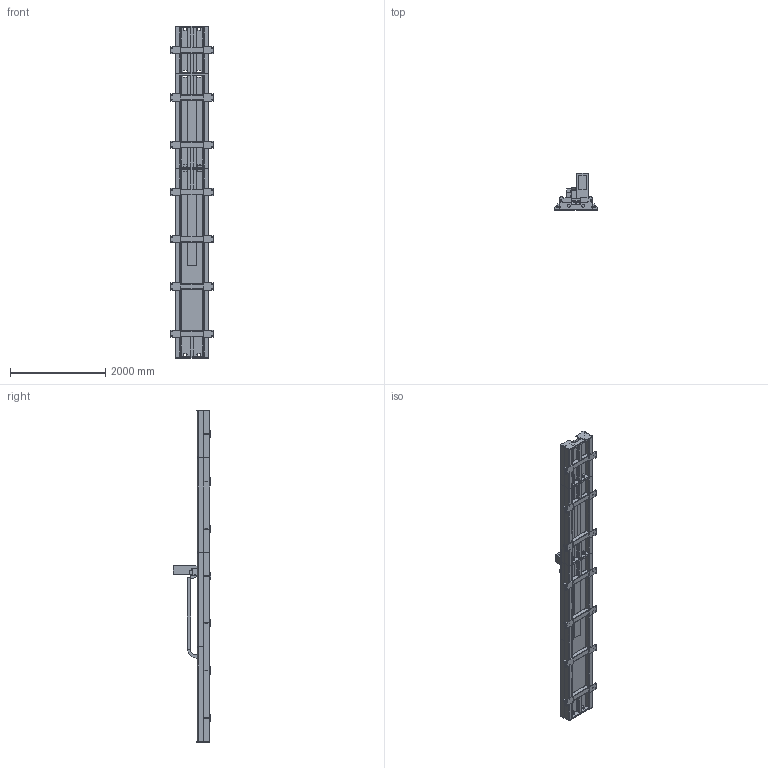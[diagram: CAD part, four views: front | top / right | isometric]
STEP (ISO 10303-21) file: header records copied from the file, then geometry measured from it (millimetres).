
FILE_DESCRIPTION (( 'STEP AP203' ), '1' );
FILE_NAME ('AUT-SW-X-Z-L-007.STEP', '2021-08-25T09:49:04', ( 'Microsoft' ), ( 'Microsoft' ), 'SwSTEP 2.0', 'SolidWorks 2020', '' );
FILE_SCHEMA (( 'CONFIG_CONTROL_DESIGN' ));
Length unit declared in the file: millimetre
Products named in the file (1): AUT-SW-X-Z-L-007
Bounding box: 900 x 781 x 6954 mm (x, y, z)
Surface area: 29369885.8 mm2 (no closed solid volume)
Topology: 0 solids, 68 shells, 1297 faces, 5920 edges, 4592 vertices
Faces by surface type: plane 747, cylinder 543, cone 7
Entity records: 61711 total; most frequent: CARTESIAN_POINT 11991, DIRECTION 10853, ORIENTED_EDGE 8286, EDGE_CURVE 5920, VERTEX_POINT 4592, AXIS2_PLACEMENT_3D 3670, VECTOR 3513, LINE 3513
